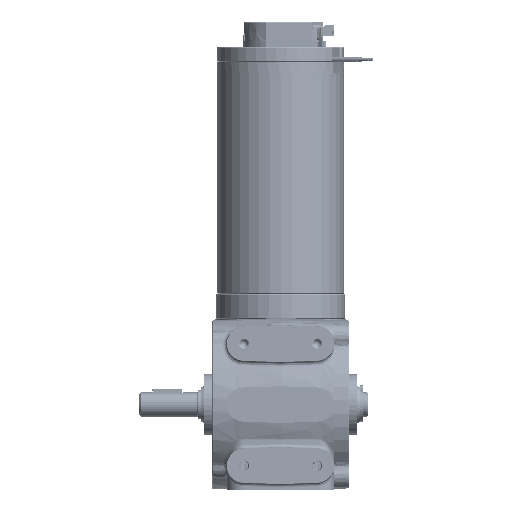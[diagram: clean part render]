
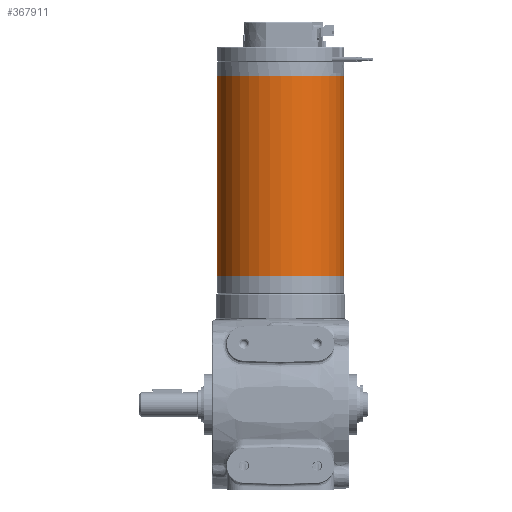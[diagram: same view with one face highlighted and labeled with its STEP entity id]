
A CAD part, front view. The second image highlights one B-rep face of the part: STEP entity #367911.
In plain terms, the highlighted cylindrical face has radius 26 mm (diameter 52 mm), a partial arc.
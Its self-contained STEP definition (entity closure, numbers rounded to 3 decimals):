
#2567 = ORIENTED_EDGE ( 'NONE', *, *, #32456, .T. ) ;
#32456 = EDGE_CURVE ( 'NONE', #246535, #241992, #52753, .T. ) ;
#34347 = DIRECTION ( 'NONE',  ( 0., 0., -1. ) ) ;
#52753 = CIRCLE ( 'NONE', #286249, 26. ) ;
#53665 = CARTESIAN_POINT ( 'NONE',  ( 85.757, 20.848, 107.564 ) ) ;
#64004 = CARTESIAN_POINT ( 'NONE',  ( 85.757, 20.848, 189.564 ) ) ;
#88416 = EDGE_CURVE ( 'NONE', #246535, #359087, #128276, .T. ) ;
#92291 = CARTESIAN_POINT ( 'NONE',  ( 33.757, 20.848, 107.564 ) ) ;
#115939 = VERTEX_POINT ( 'NONE', #92291 ) ;
#119975 = AXIS2_PLACEMENT_3D ( 'NONE', #444437, #131549, #375967 ) ;
#126734 = ORIENTED_EDGE ( 'NONE', *, *, #166679, .T. ) ;
#128276 = LINE ( 'NONE', #64004, #427564 ) ;
#131549 = DIRECTION ( 'NONE',  ( 0., 0., -1. ) ) ;
#137924 = DIRECTION ( 'NONE',  ( 1., 0., 0. ) ) ;
#166679 = EDGE_CURVE ( 'NONE', #241992, #115939, #301958, .T. ) ;
#170315 = DIRECTION ( 'NONE',  ( 1., 0., 0. ) ) ;
#188510 = EDGE_LOOP ( 'NONE', ( #2567, #126734, #241717, #442471 ) ) ;
#206834 = AXIS2_PLACEMENT_3D ( 'NONE', #380100, #283898, #137924 ) ;
#206845 = DIRECTION ( 'NONE',  ( 0., 0., -1. ) ) ;
#241013 = FACE_OUTER_BOUND ( 'NONE', #188510, .T. ) ;
#241717 = ORIENTED_EDGE ( 'NONE', *, *, #389316, .F. ) ;
#241992 = VERTEX_POINT ( 'NONE', #360331 ) ;
#246535 = VERTEX_POINT ( 'NONE', #327139 ) ;
#272138 = CARTESIAN_POINT ( 'NONE',  ( 33.757, 20.848, 189.564 ) ) ;
#283898 = DIRECTION ( 'NONE',  ( 0., 0., -1. ) ) ;
#285098 = VECTOR ( 'NONE', #34347, 1000. ) ;
#286249 = AXIS2_PLACEMENT_3D ( 'NONE', #350611, #206845, #170315 ) ;
#301958 = LINE ( 'NONE', #272138, #285098 ) ;
#305056 = CYLINDRICAL_SURFACE ( 'NONE', #119975, 26. ) ;
#327139 = CARTESIAN_POINT ( 'NONE',  ( 85.757, 20.848, 189.564 ) ) ;
#350611 = CARTESIAN_POINT ( 'NONE',  ( 59.757, 20.848, 189.564 ) ) ;
#359087 = VERTEX_POINT ( 'NONE', #53665 ) ;
#360331 = CARTESIAN_POINT ( 'NONE',  ( 33.757, 20.848, 189.564 ) ) ;
#367911 = ADVANCED_FACE ( 'NONE', ( #241013 ), #305056, .T. ) ;
#370305 = DIRECTION ( 'NONE',  ( 0., 0., -1. ) ) ;
#375967 = DIRECTION ( 'NONE',  ( 1., 0., 0. ) ) ;
#380100 = CARTESIAN_POINT ( 'NONE',  ( 59.757, 20.848, 107.564 ) ) ;
#389316 = EDGE_CURVE ( 'NONE', #359087, #115939, #403919, .T. ) ;
#403919 = CIRCLE ( 'NONE', #206834, 26. ) ;
#427564 = VECTOR ( 'NONE', #370305, 1000. ) ;
#442471 = ORIENTED_EDGE ( 'NONE', *, *, #88416, .F. ) ;
#444437 = CARTESIAN_POINT ( 'NONE',  ( 59.757, 20.848, 189.564 ) ) ;
